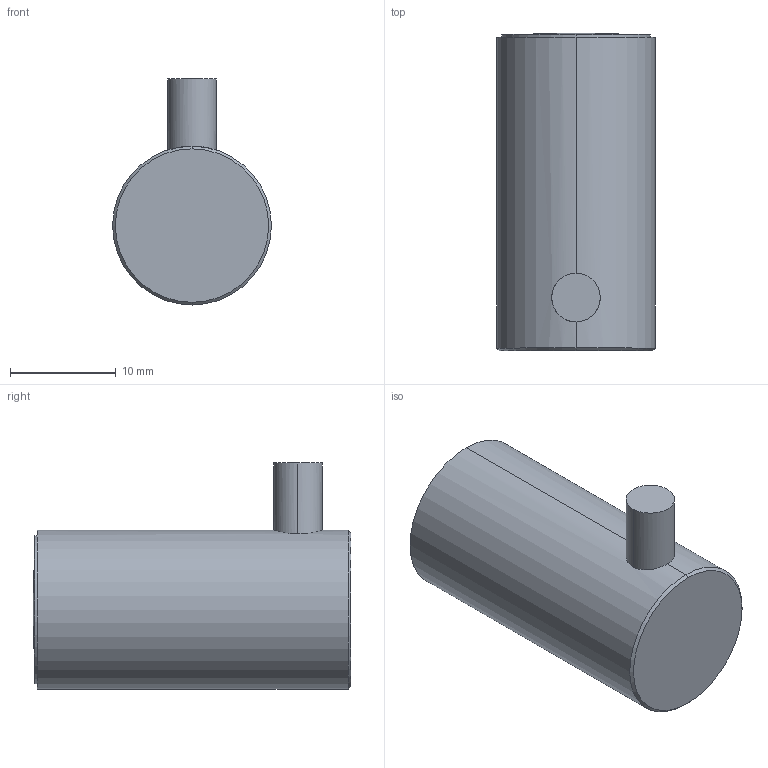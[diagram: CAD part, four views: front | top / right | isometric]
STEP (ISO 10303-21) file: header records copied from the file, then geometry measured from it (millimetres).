
FILE_DESCRIPTION (( 'STEP AP203' ), '1' );
FILE_NAME ('FINAL ASBY SS1520-5KN.STEP', '2022-12-06T15:36:56', ( '' ), ( '' ), 'SwSTEP 2.0', 'SolidWorks 2008', '' );
FILE_SCHEMA (( 'CONFIG_CONTROL_DESIGN' ));
Length unit declared in the file: inch
Products named in the file (1): FINAL ASBY SS1520-5KN
Bounding box: 14.99 x 30 x 21.34 mm (x, y, z)
Volume: 4456.6 mm3; surface area: 3097.4 mm2
Topology: 1 solids, 2 shells, 22 faces, 48 edges, 30 vertices
Faces by surface type: cylinder 10, plane 5, torus 4, cone 2, sphere 1
Entity records: 722 total; most frequent: CARTESIAN_POINT 156, DIRECTION 115, ORIENTED_EDGE 90, AXIS2_PLACEMENT_3D 51, EDGE_CURVE 45, CIRCLE 28, VERTEX_POINT 28, EDGE_LOOP 25
